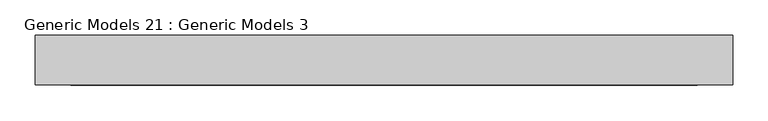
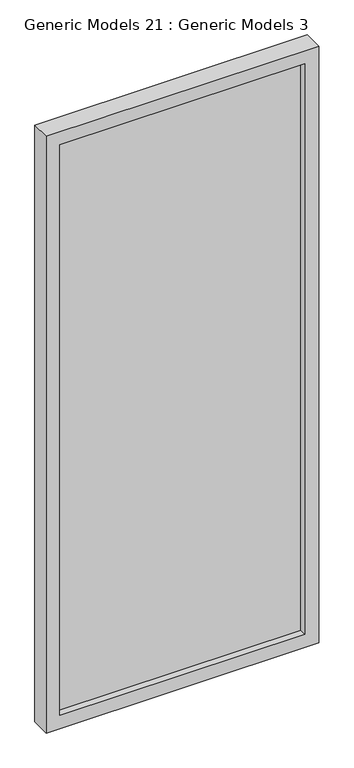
"""IFC4 building model written with IfcOpenShell, lengths in millimetres: proxy geometry, Generic Models 21 : Generic Models 3."""

import ifcopenshell
import ifcopenshell.guid

model = None  # the IFC model being written
_history = None  # IfcOwnerHistory: only IFC2X3 demands one
_inside = {}  # id of a spatial element -> (the spatial element, [elements in it])
_under = {}  # id of a project, library or spatial element -> (it, [spatial elements below it])
_declared = {}  # id of a project -> (the project, [libraries it declares])
_typed = {}  # id of a type object -> (the type object, [elements of that type])
_made_of = {}  # id of a material, layer set ... -> (it, [elements and type objects made of it])


def new_model(schema):
    """Start an empty IFC model of exactly this schema.

    Asked for "IFC4X3", IfcOpenShell would pick the latest addendum, in which some entities
    have other attributes; the version numbers below select the first issue.
    IFC2X3 requires an IfcOwnerHistory on every rooted entity: one is made here for all.
    """
    global model, _history
    if schema == "IFC4X3":
        model = ifcopenshell.file(schema_version=(4, 3, 0, 0))
    else:
        model = ifcopenshell.file(schema=schema)
    _inside.clear()
    _under.clear()
    _declared.clear()
    _typed.clear()
    _made_of.clear()
    _history = None
    if model.schema == "IFC2X3":
        org = make("IfcOrganization", Name="unknown")
        user = make(
            "IfcPersonAndOrganization",
            ThePerson=make("IfcPerson", FamilyName="unknown"),
            TheOrganization=org,
        )
        app = make(
            "IfcApplication",
            ApplicationDeveloper=org,
            Version="unknown",
            ApplicationFullName="unknown",
            ApplicationIdentifier="unknown",
        )
        _history = make(
            "IfcOwnerHistory",
            OwningUser=user,
            OwningApplication=app,
            ChangeAction="ADDED",
            CreationDate=0,
        )
    return model


def make(cls, **values):
    """One entity of the class cls with the attributes given. An attribute that is None is left unset."""
    return model.create_entity(
        cls, **{name: value for name, value in values.items() if value is not None}
    )


def rooted(cls, **values):
    """An entity with a GlobalId (a new one), such as an element, a storey or a relation."""
    return make(cls, GlobalId=ifcopenshell.guid.new(), OwnerHistory=_history, **values)


def si_unit(unit_type, name, prefix=None):
    """IfcSIUnit, for example si_unit("LENGTHUNIT", "METRE", prefix="MILLI")."""
    return make("IfcSIUnit", UnitType=unit_type, Prefix=prefix, Name=name)


def assignment(units):
    """IfcUnitAssignment: the units of a project."""
    return None if units is None else make("IfcUnitAssignment", Units=units)


def point(xyz):
    """IfcCartesianPoint."""
    return None if xyz is None else make("IfcCartesianPoint", Coordinates=xyz)


def direction(xyz):
    """IfcDirection."""
    return None if xyz is None else make("IfcDirection", DirectionRatios=xyz)


def frame(location, z_axis=None, x_axis=None):
    """IfcAxis2Placement3D, a coordinate frame: its origin and axes. An axis left out is left unset."""
    return make(
        "IfcAxis2Placement3D",
        Location=point(location),
        Axis=direction(z_axis),
        RefDirection=direction(x_axis),
    )


def origin():
    """The frame at (0, 0, 0) with its axes left unset."""
    return frame((0.0, 0.0, 0.0))


def place(relative_to, where):
    """IfcLocalPlacement: puts the frame where relative to a parent placement (None: the world)."""
    return make(
        "IfcLocalPlacement", PlacementRelTo=relative_to, RelativePlacement=where
    )


def context(
    kind, dimensions, precision=None, world=None, true_north=None, identifier=None
):
    """IfcGeometricRepresentationContext, for example the 3D "Model" context."""
    return make(
        "IfcGeometricRepresentationContext",
        ContextIdentifier=identifier,
        ContextType=kind,
        CoordinateSpaceDimension=dimensions,
        Precision=precision,
        WorldCoordinateSystem=world,
        TrueNorth=true_north,
    )


def project(units=None, contexts=None):
    """IfcProject with its units and contexts."""
    return rooted(
        "IfcProject",
        Name="project",
        RepresentationContexts=contexts,
        UnitsInContext=assignment(units),
    )


def spatial(cls, under=None, at=None, **own):
    """A site, building, storey or space (cls), placed at a placement, below another one or the project."""
    s = rooted(cls, ObjectPlacement=at, **own)
    if under is not None:
        _under.setdefault(under.id(), (under, []))[1].append(s)
    return s


def polyline(points):
    """IfcPolyline through the points."""
    return make("IfcPolyline", Points=[point(p) for p in points])


def outline(outer, holes=None, kind="AREA"):
    """IfcArbitraryClosedProfileDef: a profile drawn as a closed curve; with holes, ...WithVoids."""
    if holes is None:
        return make("IfcArbitraryClosedProfileDef", ProfileType=kind, OuterCurve=outer)
    return make(
        "IfcArbitraryProfileDefWithVoids",
        ProfileType=kind,
        OuterCurve=outer,
        InnerCurves=holes,
    )


def extrude(swept, where, along, depth):
    """IfcExtrudedAreaSolid: the profile swept, set in the frame where, extruded along a direction by depth."""
    return make(
        "IfcExtrudedAreaSolid",
        SweptArea=swept,
        Position=where,
        ExtrudedDirection=direction(along),
        Depth=depth,
    )


def shape(context_of_items, identifier, shape_type, items):
    """IfcShapeRepresentation: the items that make up one representation, for example the "Body"."""
    return make(
        "IfcShapeRepresentation",
        ContextOfItems=context_of_items,
        RepresentationIdentifier=identifier,
        RepresentationType=shape_type,
        Items=items,
    )


def source(mapping_origin, context_of_items, identifier, shape_type, items):
    """IfcRepresentationMap: a shape defined once, which mapped items show again and again."""
    return make(
        "IfcRepresentationMap",
        MappingOrigin=mapping_origin,
        MappedRepresentation=shape(context_of_items, identifier, shape_type, items),
    )


def transform(
    local_origin,
    x_axis=None,
    y_axis=None,
    z_axis=None,
    scale=None,
    scale2=None,
    scale3=None,
    uniform=True,
):
    """IfcCartesianTransformationOperator3D, or its non-uniform kind. x_axis, y_axis, z_axis: its Axis1, 2, 3."""
    if uniform:
        return make(
            "IfcCartesianTransformationOperator3D",
            Axis1=direction(x_axis),
            Axis2=direction(y_axis),
            LocalOrigin=point(local_origin),
            Scale=scale,
            Axis3=direction(z_axis),
        )
    return make(
        "IfcCartesianTransformationOperator3DnonUniform",
        Axis1=direction(x_axis),
        Axis2=direction(y_axis),
        LocalOrigin=point(local_origin),
        Scale=scale,
        Axis3=direction(z_axis),
        Scale2=scale2,
        Scale3=scale3,
    )


def mapped(mapping_source, mapping_target):
    """IfcMappedItem: shows the shape of a source again, moved by a transform."""
    return make(
        "IfcMappedItem", MappingSource=mapping_source, MappingTarget=mapping_target
    )


def made_of(thing, what):
    """Note that an element or type object is made of a material, layer set ...; save() writes the relation."""
    if what is not None:
        _made_of.setdefault(what.id(), (what, []))[1].append(thing)
    return thing


def element(
    cls,
    number,
    at=None,
    inside=None,
    cuts=None,
    type_object=None,
    material=None,
    context=None,
    identifier="Body",
    shape_type=None,
    held_by="IfcProductDefinitionShape",
    body=None,
    shapes=None,
    **own,
):
    """One element of the class cls, such as IfcWall. Its Tag is "e" and its number.

    at: its placement. inside: the storey or other place that contains it. cuts: it is an
    opening in that element (IfcRelVoidsElement). A single representation is given by context,
    identifier, shape_type and body (its items); several are given by shapes. held_by: the class
    of the entity that holds the representations. save() writes the other relations.
    """
    e = rooted(cls, Tag="e%d" % number, ObjectPlacement=at, **own)
    if body is not None:
        shapes = [shape(context, identifier, shape_type, body)]
    if shapes is not None:
        e.Representation = make(held_by, Representations=shapes)
    if inside is not None:
        _inside.setdefault(inside.id(), (inside, []))[1].append(e)
    if cuts is not None:
        rooted(
            "IfcRelVoidsElement", RelatingBuildingElement=cuts, RelatedOpeningElement=e
        )
    if type_object is not None:
        _typed.setdefault(type_object.id(), (type_object, []))[1].append(e)
    return made_of(e, material)


def aggregate(whole, parts):
    """IfcRelAggregates: a whole, such as a stair, and the parts it consists of."""
    return rooted("IfcRelAggregates", RelatingObject=whole, RelatedObjects=parts)


def save(model, path):
    """Write the relations noted so far, then the file.

    IfcRelAggregates (storeys below a building ...), IfcRelContainedInSpatialStructure (elements
    in a storey), IfcRelDefinesByType, IfcRelAssociatesMaterial and IfcRelDeclares: one each for
    every whole, place, type object, material and project.
    """
    for whole, parts in _under.values():
        aggregate(whole, parts)
    for where, things in _inside.values():
        rooted(
            "IfcRelContainedInSpatialStructure",
            RelatedElements=things,
            RelatingStructure=where,
        )
    for kind, things in _typed.values():
        rooted("IfcRelDefinesByType", RelatedObjects=things, RelatingType=kind)
    for what, things in _made_of.values():
        rooted("IfcRelAssociatesMaterial", RelatedObjects=things, RelatingMaterial=what)
    for by, libraries in _declared.values():
        rooted("IfcRelDeclares", RelatingContext=by, RelatedDefinitions=libraries)
    model.write(path)


def generic_models_21_generic_models_3_42e0593c(model_context):
    return source(origin(), model_context, "Body", "SweptSolid", [
        extrude(outline(polyline([(-10185.4354417, -3824.0449025), (-11068.5171482, -3824.0449025), (-11068.5171482, -3793.2921331), (-10185.4354417, -3793.2921331), (-10185.4354417, -3824.0449025)])), frame((0.0, 0.0, 12773.9), z_axis=(0.0, 0.0, 1.0), x_axis=(1.0, 0.0, 0.0)), (0.0, 0.0, 1.0), 2176.1),
        extrude(outline(polyline([(15000.0, -11118.5171482), (12723.9, -11118.5171482), (12723.9, -10135.4354417), (15000.0, -10135.4354417), (15000.0, -11118.5171482)]), holes=[polyline([(14950.0, -11068.5171482), (14950.0, -10185.4354417), (12773.9, -10185.4354417), (12773.9, -11068.5171482), (14950.0, -11068.5171482)])]), frame((0.0, -3849.4449025, 0.0), z_axis=(0.0, 1.0, 0.0), x_axis=(0.0, 0.0, 1.0)), (0.0, 0.0, 1.0), 69.85),
    ])


if __name__ == "__main__":
    model = new_model("IFC4")
    model_context = context("Model", 3, world=origin())
    ifc_project = project(units=[si_unit("LENGTHUNIT", "METRE", prefix="MILLI")], contexts=[model_context])
    site = spatial("IfcSite", under=ifc_project)
    building = spatial("IfcBuilding", under=site)
    placement = place(None, origin())
    generic_models_21_generic_models_3_shape = generic_models_21_generic_models_3_42e0593c(model_context)
    element("IfcBuildingElementProxy", 1, Name="Generic Models 21 : Generic Models 3", ObjectType="Generic Models 21 : Generic Models 3", at=placement, inside=building, context=model_context, shape_type="MappedRepresentation", body=[
        mapped(generic_models_21_generic_models_3_shape, transform((0.0, 0.0, 0.0), x_axis=(1.0, 0.0, 0.0), y_axis=(0.0, 1.0, 0.0), z_axis=(0.0, 0.0, 1.0))),
    ])
    save(model, "model.ifc")
